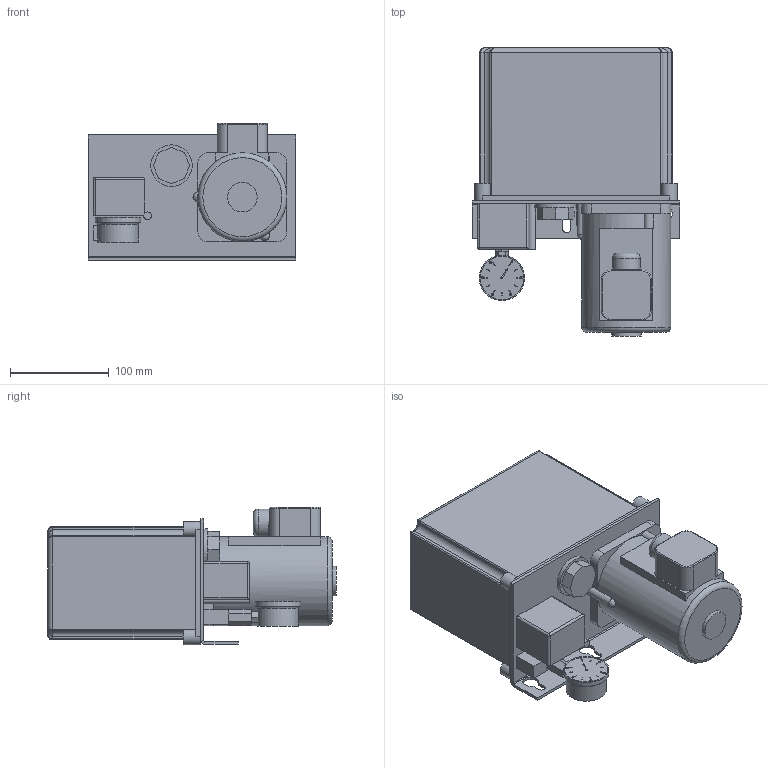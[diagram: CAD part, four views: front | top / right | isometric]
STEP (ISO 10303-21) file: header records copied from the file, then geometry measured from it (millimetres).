
FILE_DESCRIPTION(('STEP AP214'), '1');
FILE_NAME('DR5-Z - Íàñîñ ìàñëÿíûé àâòîìàòè÷åñêèé', '', ('UNSPECIFIED'), ('UNSPECIFIED'), 'ASCON STEP Converter 1.3', 'ASCON Math Kernel', '');
FILE_SCHEMA(('AUTOMOTIVE_DESIGN { 1 0 10303 214 3 1 1}'));
Length unit declared in the file: millimetre
Products named in the file (1): DR5-Z
Bounding box: 210 x 292 x 139.5 mm (x, y, z)
Volume: 4656086.8 mm3; surface area: 281198.3 mm2
Topology: 2 solids, 6 shells, 1054 faces, 2962 edges, 1945 vertices
Faces by surface type: plane 535, cylinder 497, bspline 12, torus 7, sphere 3
Full cylindrical faces by diameter (mm): 28 x1, 30 x1, 41 x1, 42 x1, 44 x1, 46 x1, 90 x1
Entity records: 43756 total; most frequent: CARTESIAN_POINT 7331, DIRECTION 5995, ORIENTED_EDGE 5854, EDGE_CURVE 2937, AXIS2_PLACEMENT_3D 2049, VERTEX_POINT 1945, LINE 1897, VECTOR 1897
